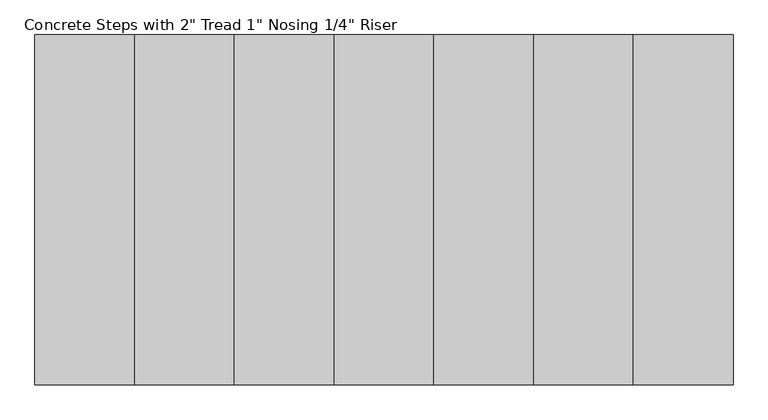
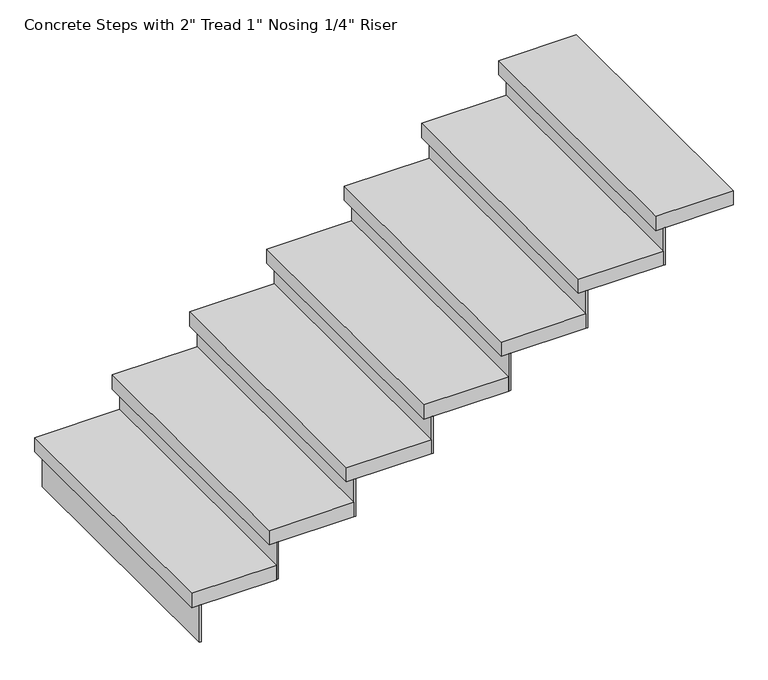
"""IFC4 building model written with IfcOpenShell, lengths in millimetres: stair flight geometry."""

from ifc_helpers import new_model, si_unit, frame, origin, place, context, project, spatial, polyline, outline, extrude, source, transform, mapped, element, save


def stair_flight_a33a6d92(model_context):
    return source(origin(), model_context, "Body", "SweptSolid", [
        extrude(outline(polyline([(6350.1221922, 32679.1406645), (6343.7721922, 32679.1406645), (6343.7721922, 33593.5406645), (6350.1221922, 33593.5406645), (6350.1221922, 32679.1406645)])), frame((0.0, 0.0, 2069.5478261), z_axis=(0.0, 0.0, 1.0), x_axis=(1.0, 0.0, 0.0)), (0.0, 0.0, 1.0), 132.5217391),
        extrude(outline(polyline([(6604.1221922, 33593.5406645), (6604.1221922, 32679.1406645), (6318.3721922, 32679.1406645), (6318.3721922, 33593.5406645), (6604.1221922, 33593.5406645)])), frame((0.0, 0.0, 2202.0695652), z_axis=(0.0, 0.0, 1.0), x_axis=(1.0, 0.0, 0.0)), (0.0, 0.0, 1.0), 50.8),
        extrude(outline(polyline([(6610.4721922, 32679.1406645), (6604.1221922, 32679.1406645), (6604.1221922, 33593.5406645), (6610.4721922, 33593.5406645), (6610.4721922, 32679.1406645)])), frame((0.0, 0.0, 2202.0695652), z_axis=(0.0, 0.0, 1.0), x_axis=(1.0, 0.0, 0.0)), (0.0, 0.0, 1.0), 132.5217391),
        extrude(outline(polyline([(6864.4721922, 33593.5406645), (6864.4721922, 32679.1406645), (6578.7221922, 32679.1406645), (6578.7221922, 33593.5406645), (6864.4721922, 33593.5406645)])), frame((0.0, 0.0, 2334.5913043), z_axis=(0.0, 0.0, 1.0), x_axis=(1.0, 0.0, 0.0)), (0.0, 0.0, 1.0), 50.8),
        extrude(outline(polyline([(6870.8221922, 32679.1406645), (6864.4721922, 32679.1406645), (6864.4721922, 33593.5406645), (6870.8221922, 33593.5406645), (6870.8221922, 32679.1406645)])), frame((0.0, 0.0, 2334.5913043), z_axis=(0.0, 0.0, 1.0), x_axis=(1.0, 0.0, 0.0)), (0.0, 0.0, 1.0), 132.5217391),
        extrude(outline(polyline([(7124.8221922, 33593.5406645), (7124.8221922, 32679.1406645), (6839.0721922, 32679.1406645), (6839.0721922, 33593.5406645), (7124.8221922, 33593.5406645)])), frame((0.0, 0.0, 2467.1130435), z_axis=(0.0, 0.0, 1.0), x_axis=(1.0, 0.0, 0.0)), (0.0, 0.0, 1.0), 50.8),
        extrude(outline(polyline([(7131.1721922, 32679.1406645), (7124.8221922, 32679.1406645), (7124.8221922, 33593.5406645), (7131.1721922, 33593.5406645), (7131.1721922, 32679.1406645)])), frame((0.0, 0.0, 2467.1130435), z_axis=(0.0, 0.0, 1.0), x_axis=(1.0, 0.0, 0.0)), (0.0, 0.0, 1.0), 132.5217391),
        extrude(outline(polyline([(7385.1721922, 33593.5406645), (7385.1721922, 32679.1406645), (7099.4221922, 32679.1406645), (7099.4221922, 33593.5406645), (7385.1721922, 33593.5406645)])), frame((0.0, 0.0, 2599.6347826), z_axis=(0.0, 0.0, 1.0), x_axis=(1.0, 0.0, 0.0)), (0.0, 0.0, 1.0), 50.8),
        extrude(outline(polyline([(7391.5221922, 32679.1406645), (7385.1721922, 32679.1406645), (7385.1721922, 33593.5406645), (7391.5221922, 33593.5406645), (7391.5221922, 32679.1406645)])), frame((0.0, 0.0, 2599.6347826), z_axis=(0.0, 0.0, 1.0), x_axis=(1.0, 0.0, 0.0)), (0.0, 0.0, 1.0), 132.5217391),
        extrude(outline(polyline([(7645.5221922, 33593.5406645), (7645.5221922, 32679.1406645), (7359.7721922, 32679.1406645), (7359.7721922, 33593.5406645), (7645.5221922, 33593.5406645)])), frame((0.0, 0.0, 2732.1565217), z_axis=(0.0, 0.0, 1.0), x_axis=(1.0, 0.0, 0.0)), (0.0, 0.0, 1.0), 50.8),
        extrude(outline(polyline([(7651.8721922, 32679.1406645), (7645.5221922, 32679.1406645), (7645.5221922, 33593.5406645), (7651.8721922, 33593.5406645), (7651.8721922, 32679.1406645)])), frame((0.0, 0.0, 2732.1565217), z_axis=(0.0, 0.0, 1.0), x_axis=(1.0, 0.0, 0.0)), (0.0, 0.0, 1.0), 132.5217391),
        extrude(outline(polyline([(7905.8721922, 33593.5406645), (7905.8721922, 32679.1406645), (7620.1221922, 32679.1406645), (7620.1221922, 33593.5406645), (7905.8721922, 33593.5406645)])), frame((0.0, 0.0, 2864.6782609), z_axis=(0.0, 0.0, 1.0), x_axis=(1.0, 0.0, 0.0)), (0.0, 0.0, 1.0), 50.8),
        extrude(outline(polyline([(7912.2221922, 32679.1406645), (7905.8721922, 32679.1406645), (7905.8721922, 33593.5406645), (7912.2221922, 33593.5406645), (7912.2221922, 32679.1406645)])), frame((0.0, 0.0, 2864.6782609), z_axis=(0.0, 0.0, 1.0), x_axis=(1.0, 0.0, 0.0)), (0.0, 0.0, 1.0), 132.5217391),
        extrude(outline(polyline([(8140.8221922, 33593.5406645), (8140.8221922, 32679.1406645), (7880.4721922, 32679.1406645), (7880.4721922, 33593.5406645), (8140.8221922, 33593.5406645)])), frame((0.0, 0.0, 2997.2), z_axis=(0.0, 0.0, 1.0), x_axis=(1.0, 0.0, 0.0)), (0.0, 0.0, 1.0), 50.8),
    ])


if __name__ == "__main__":
    model = new_model("IFC4")
    model_context = context("Model", 3, world=origin())
    ifc_project = project(units=[si_unit("LENGTHUNIT", "METRE", prefix="MILLI")], contexts=[model_context])
    site = spatial("IfcSite", under=ifc_project)
    building = spatial("IfcBuilding", under=site)
    placement = place(None, origin())
    stair_flight_shape = stair_flight_a33a6d92(model_context)
    element("IfcStairFlight", 1, ObjectType="Concrete Steps with 2\" Tread 1\" Nosing 1/4\" Riser", at=placement, inside=building, context=model_context, shape_type="MappedRepresentation", body=[
        mapped(stair_flight_shape, transform((0.0, 0.0, 0.0), x_axis=(1.0, 0.0, 0.0), y_axis=(0.0, 1.0, 0.0), z_axis=(0.0, 0.0, 1.0))),
    ])
    save(model, "model.ifc")
